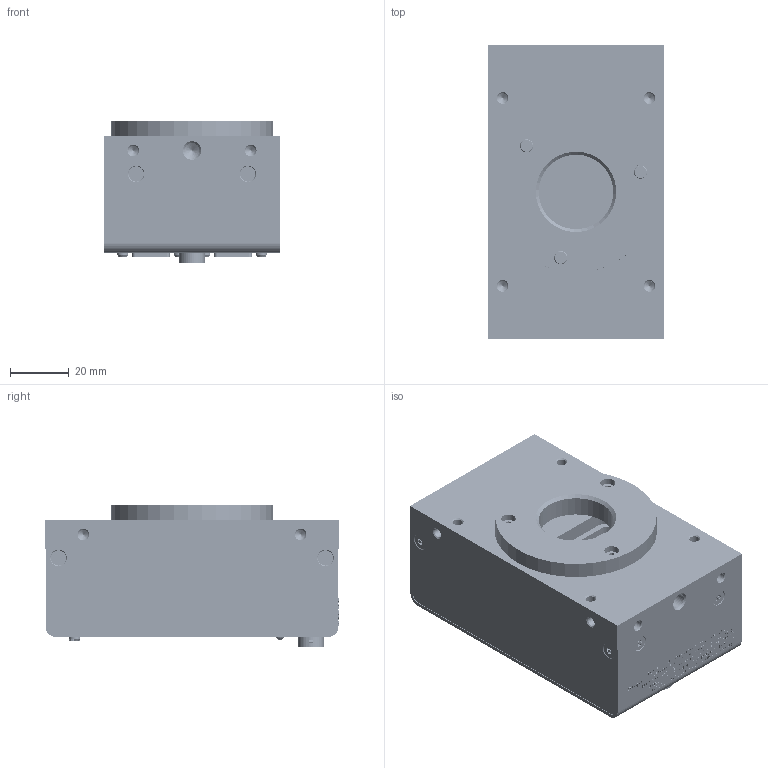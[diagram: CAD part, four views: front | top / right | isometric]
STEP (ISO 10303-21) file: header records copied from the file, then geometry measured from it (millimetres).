
FILE_DESCRIPTION (( 'STEP AP214' ), '1' );
FILE_NAME ('C7-5031-00-44／RMSL2K125CL(C)外形図.STEP', '2019-03-15T02:40:30', ( '' ), ( '' ), 'SwSTEP 2.0', 'SolidWorks 2016', '' );
FILE_SCHEMA (( 'AUTOMOTIVE_DESIGN' ));
Length unit declared in the file: millimetre
Products named in the file (24): C4-1004-03-42／フロントパネル; C5-5058-00-44_80／ピッチコネクタヘッダー_FX8C-80P-SV; C5-5058-00-44_60／ピッチコネクタヘッダー_FX8C-60P-SV; ナット^C5-5094-00-43／コネクタ_HR10G-7R-6PB(73); C5-1001-06-42／XCM4080SHT8用メイン基板_PCB-XCM4080SHM1#F-XCM4080SHT8; C7-5031-00-44／RMSL2K125CL(C)外形図; C4-1005-02-42／背面カバー; C4-1006-01-42／側面パネル; C5-5029-00-40_06／六角穴付ボルト M2.6X06 SUS_SCB2.6-6; C5-5012-00-40_08／座付きなべ頭小ねじ（P=4) M2.6X08 SUS_CSPPNZP-SUS-M2.6-8; C5-5057-00-44_4／スルーホールタップ_THC-0.8-4.0-3; C5-5258-00-43乛衅兑棕莞SDR喝咐_12226-1100-00PL; C5-5099-00-43／発光ダイオード_SPR-39MVWF; C5-5138-00-43_6／LED用スペーサー_LM-6; Copy of Part5^C5-5094-00-43／コネクタ_HR10G-7R-6PB(73); 菊座^C5-5094-00-43／コネクタ_HR10G-7R-6PB(73); C5-5091-00-43_10／コネクタ_DF11-10DP-2DS; C5-5094-00-43／コネクタ_HR10G-7R-6PB(73); Part1^C5-1001-06-42／XCM4080SHT8用メイン基板_PCB-XCM4080SHM1#F-XCM4080SHT8; C4-1003-01-38乛C儅僂儞僩; C5-5015-00-40_08／座付きなべ頭小ねじ（P=4) M2X08 SUS_CSPPNZP-SUS-M2-8; C5-5253-00-43／ロックスクリュー_12600-S-12; センサ基板S13774; C5-5042-00-43／ﾋﾟﾝ・ｻﾗ6-ﾛﾌﾞﾎﾞﾙﾄ_M2.6X6(SUS)
Assembly tree (40 placements, depth 3):
  C7-5031-00-44／RMSL2K125CL(C)外形図
    C4-1003-01-38乛C儅僂儞僩
    C4-1004-03-42／フロントパネル
    C4-1005-02-42／背面カバー
    C4-1006-01-42／側面パネル  x2
    C5-5094-00-43／コネクタ_HR10G-7R-6PB(73)
      Copy of Part5^C5-5094-00-43／コネクタ_HR10G-7R-6PB(73)
      菊座^C5-5094-00-43／コネクタ_HR10G-7R-6PB(73)
      ナット^C5-5094-00-43／コネクタ_HR10G-7R-6PB(73)
    C5-1001-06-42／XCM4080SHT8用メイン基板_PCB-XCM4080SHM1#F-XCM4080SHT8
      Part1^C5-1001-06-42／XCM4080SHT8用メイン基板_PCB-XCM4080SHM1#F-XCM4080SHT8
      C5-5057-00-44_4／スルーホールタップ_THC-0.8-4.0-3  x2
      C5-5058-00-44_60／ピッチコネクタヘッダー_FX8C-60P-SV
      C5-5058-00-44_80／ピッチコネクタヘッダー_FX8C-80P-SV
      C5-5091-00-43_10／コネクタ_DF11-10DP-2DS
      C5-5099-00-43／発光ダイオード_SPR-39MVWF
      C5-5138-00-43_6／LED用スペーサー_LM-6
      C5-5253-00-43／ロックスクリュー_12600-S-12  x4
      C5-5258-00-43乛衅兑棕莞SDR喝咐_12226-1100-00PL  x2
    センサ基板S13774
    C5-5029-00-40_06／六角穴付ボルト M2.6X06 SUS_SCB2.6-6  x3
    C5-5042-00-43／ﾋﾟﾝ・ｻﾗ6-ﾛﾌﾞﾎﾞﾙﾄ_M2.6X6(SUS)  x8
    C5-5012-00-40_08／座付きなべ頭小ねじ（P=4) M2.6X08 SUS_CSPPNZP-SUS-M2.6-8  x2
    C5-5015-00-40_08／座付きなべ頭小ねじ（P=4) M2X08 SUS_CSPPNZP-SUS-M2-8  x2
Bounding box: 60 x 100 x 48.71 mm (x, y, z)
Volume: 136196.8 mm3; surface area: 81514.8 mm2
Topology: 47 solids, 50 shells, 9790 faces, 25252 edges, 16801 vertices
Faces by surface type: plane 5290, bspline 3066, cylinder 1298, cone 121, torus 14, sphere 1
Full cylindrical faces by diameter (mm): 0.19 x1, 0.4 x3, 0.46 x340, 0.5 x6, 0.6 x2, 0.8 x2, 0.9 x2, 1 x8, 1.2 x170, 1.6 x10, 1.688 x2, 2 x9, 2.05 x20, 2.288 x2, 2.6 x10, 2.8 x11, 3.1 x3, 3.3 x12, 3.5 x3, 3.8 x5, 4 x6, 4.3 x2, 4.5 x5, 4.8 x2, 5 x5, 5.105 x1, 5.2 x1, 5.5 x2, 5.7 x1, 6 x6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
Entity records: 426765 total; most frequent: CARTESIAN_POINT 157418, ORIENTED_EDGE 45844, DIRECTION 31511, EDGE_CURVE 22922, VERTEX_POINT 15654, VECTOR 14345, LINE 14345, EDGE_LOOP 11250
